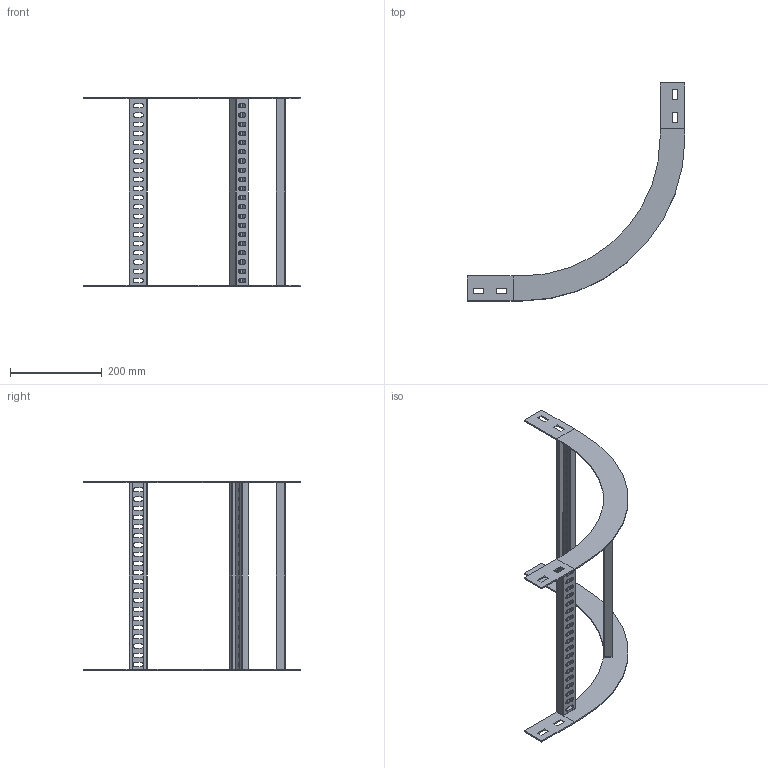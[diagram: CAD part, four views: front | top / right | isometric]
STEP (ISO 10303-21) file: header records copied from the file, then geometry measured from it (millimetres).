
FILE_DESCRIPTION(/* description */ ('','CAx-IF Rec.Pracs.---Representation and Presentation of Product Manufacturing Information (PMI)---4.0---2014-10-13'),/* implementation_level */ '2;1');
FILE_NAME(/* name */ 'Eurostrut_EOR60-400-300_Outisde Riser 90 for Cable Ladder ECL.step',/* time_stamp */ '2026-09-07T11:23:01+02:00',/* author */ (''),/* organization */ (''),/* preprocessor_version */ 'ST-DEVELOPER v20.1',/* originating_system */ 'Autodesk Revit 2027 27.2.0.39',/* authorisation */ '');
FILE_SCHEMA (('FEATURE_BASED_PROCESS_PLANNING','AP242_MANAGED_MODEL_BASED_3D_ENGINEERING_MIM_LF { 1 0 10303 442 2 1 4 }'));
Length unit declared in the file: millimetre
Products named in the file (4): TopLevelAssembly; Eurostrut_Cable Ladder_Accessory End_54-94-142; Eurostrut_Cable Ladder_Rung_V2 Vertical_Array EOR_Slotted; Sweep
Assembly tree (6 placements, depth 2):
  TopLevelAssembly
    Eurostrut_Cable Ladder_Accessory End_54-94-142  x4
    Eurostrut_Cable Ladder_Rung_V2 Vertical_Array EOR_Slotted
    Sweep
Bounding box: 474 x 474 x 411 mm (x, y, z)
Volume: 381448.4 mm3; surface area: 371970.5 mm2
Topology: 9 solids, 9 shells, 370 faces, 1056 edges, 704 vertices
Faces by surface type: plane 234, bspline 120, cylinder 16
Entity records: 14538 total; most frequent: CARTESIAN_POINT 5638, ORIENTED_EDGE 1896, DIRECTION 1656, EDGE_CURVE 948, LINE 676, VECTOR 676, VERTEX_POINT 632, AXIS2_PLACEMENT_3D 490
